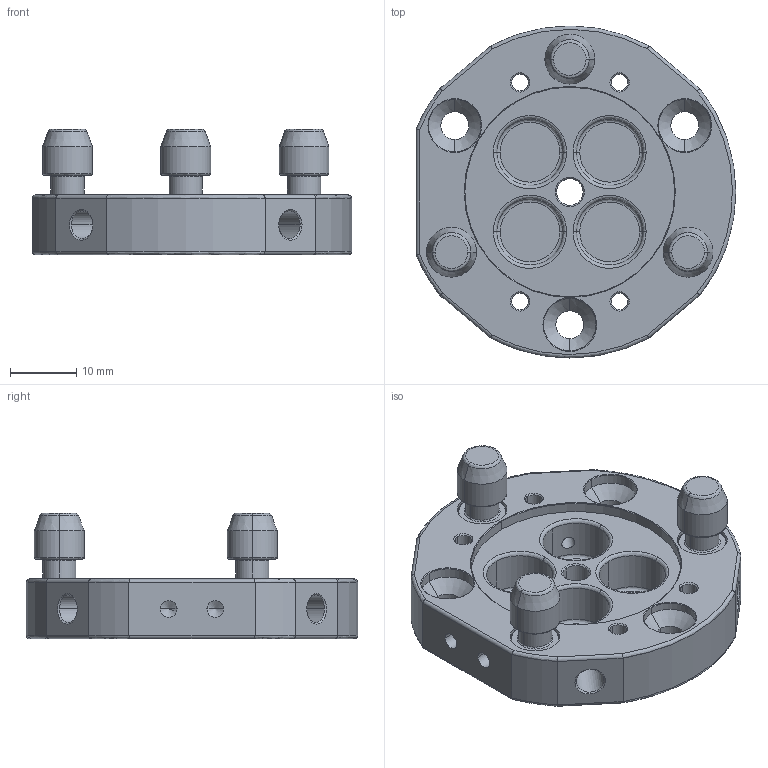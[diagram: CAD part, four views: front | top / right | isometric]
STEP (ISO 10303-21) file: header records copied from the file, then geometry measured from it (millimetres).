
FILE_DESCRIPTION (( 'STEP AP203' ), '1' );
FILE_NAME ('QC-G50.STEP', '2024-03-20T03:14:20', ( '微软用户' ), ( '微软中国' ), 'SwSTEP 2.0', 'SolidWorks 2018', '' );
FILE_SCHEMA (( 'CONFIG_CONTROL_DESIGN' ));
Length unit declared in the file: millimetre
Products named in the file (1): QC-G50
Bounding box: 48.13 x 50 x 18.9 mm (x, y, z)
Volume: 13268.6 mm3; surface area: 8890.9 mm2
Topology: 1 solids, 4 shells, 376 faces, 847 edges, 499 vertices
Faces by surface type: cylinder 126, cone 116, plane 78, bspline 56
Entity records: 12696 total; most frequent: CARTESIAN_POINT 4387, DIRECTION 1803, ORIENTED_EDGE 1658, EDGE_CURVE 829, AXIS2_PLACEMENT_3D 737, VERTEX_POINT 495, EDGE_LOOP 440, CIRCLE 416
